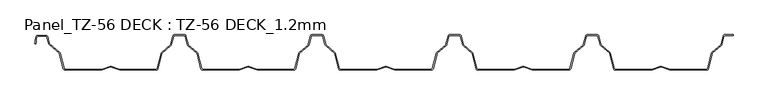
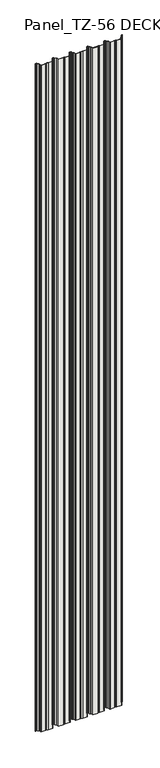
"""IFC4 building model written with IfcOpenShell, lengths in millimetres: roof geometry, Panel_TZ-56 DECK : TZ-56 DECK_1.2mm."""

from ifc_helpers import new_model, si_unit, point, frame_2d, origin, origin_with_axes, place, context, project, spatial, polyline, circle_curve, trimmed, segment, composite_curve, outline, extrude, source, transform, mapped, element, save


def panel_tz_56_deck_tz_56_deck_1_2mm_c2fe84ad(model_context):
    return source(origin(), model_context, "Body", "SweptSolid", [
        extrude(outline(composite_curve([segment(polyline([(-513.0290123, -55.5), (-454.5, -55.5), (-440.8149767, -50.7810265)]), True, "CONTINUOUS"), segment(trimmed(circle_curve(frame_2d((-440.0, -53.1444589)), 2.5), [point((-440.8149767, -50.7810265))], [point((-439.1850233, -50.7810265))], False, "CARTESIAN"), True, "CONTINUOUS"), segment(polyline([(-439.1850233, -50.7810265), (-425.5, -55.5), (-366.9709877, -55.5)]), True, "CONTINUOUS"), segment(trimmed(circle_curve(frame_2d((-366.9709877, -54.0)), 1.5), [point((-366.9709877, -55.5))], [point((-365.5173421, -54.3700198))], True, "CARTESIAN"), True, "CONTINUOUS"), segment(polyline([(-365.5173421, -54.3700198), (-359.2757013, -29.849347)]), True, "CONTINUOUS"), segment(trimmed(circle_curve(frame_2d((-356.8529587, -30.4660466)), 2.5), [point((-359.2757013, -29.849347))], [point((-358.4909613, -28.5774102))], False, "CARTESIAN"), True, "CONTINUOUS"), segment(polyline([(-358.4909613, -28.5774102), (-344.3681882, -16.3288175)]), True, "CONTINUOUS"), segment(trimmed(circle_curve(frame_2d((-345.3509898, -15.1956357)), 1.5), [point((-344.3681882, -16.3288175))], [point((-343.8965997, -15.5627182))], True, "CARTESIAN"), True, "CONTINUOUS"), segment(polyline([(-343.8965997, -15.5627182), (-340.445202, -1.8881958)]), True, "CONTINUOUS"), segment(trimmed(circle_curve(frame_2d((-338.0212186, -2.5)), 2.5), [point((-340.445202, -1.8881958))], [point((-338.0212186, 0.0))], False, "CARTESIAN"), True, "CONTINUOUS"), segment(polyline([(-338.0212186, 0.0), (-321.9787814, 0.0)]), True, "CONTINUOUS"), segment(trimmed(circle_curve(frame_2d((-321.9787814, -2.5)), 2.5), [point((-321.9787814, 0.0))], [point((-319.554798, -1.8881958))], False, "CARTESIAN"), True, "CONTINUOUS"), segment(polyline([(-319.554798, -1.8881958), (-316.1034003, -15.5627182)]), True, "CONTINUOUS"), segment(trimmed(circle_curve(frame_2d((-314.6490102, -15.1956357)), 1.5), [point((-316.1034003, -15.5627182))], [point((-315.6318118, -16.3288175))], True, "CARTESIAN"), True, "CONTINUOUS"), segment(polyline([(-315.6318118, -16.3288175), (-301.5090387, -28.5774102)]), True, "CONTINUOUS"), segment(trimmed(circle_curve(frame_2d((-303.1470413, -30.4660466)), 2.5), [point((-301.5090387, -28.5774102))], [point((-300.7242987, -29.849347))], False, "CARTESIAN"), True, "CONTINUOUS"), segment(polyline([(-300.7242987, -29.849347), (-294.4826579, -54.3700198)]), True, "CONTINUOUS"), segment(trimmed(circle_curve(frame_2d((-293.0290123, -54.0)), 1.5), [point((-294.4826579, -54.3700198))], [point((-293.0290123, -55.5))], True, "CARTESIAN"), True, "CONTINUOUS"), segment(polyline([(-293.0290123, -55.5), (-234.5, -55.5), (-220.8149767, -50.7810265)]), True, "CONTINUOUS"), segment(trimmed(circle_curve(frame_2d((-220.0, -53.1444589)), 2.5), [point((-220.8149767, -50.7810265))], [point((-219.1850233, -50.7810265))], False, "CARTESIAN"), True, "CONTINUOUS"), segment(polyline([(-219.1850233, -50.7810265), (-205.5, -55.5), (-146.9709877, -55.5)]), True, "CONTINUOUS"), segment(trimmed(circle_curve(frame_2d((-146.9709877, -54.0)), 1.5), [point((-146.9709877, -55.5))], [point((-145.5173421, -54.3700198))], True, "CARTESIAN"), True, "CONTINUOUS"), segment(polyline([(-145.5173421, -54.3700198), (-139.2757013, -29.849347)]), True, "CONTINUOUS"), segment(trimmed(circle_curve(frame_2d((-136.8529587, -30.4660466)), 2.5), [point((-139.2757013, -29.849347))], [point((-138.4909613, -28.5774102))], False, "CARTESIAN"), True, "CONTINUOUS"), segment(polyline([(-138.4909613, -28.5774102), (-124.3681882, -16.3288175)]), True, "CONTINUOUS"), segment(trimmed(circle_curve(frame_2d((-125.3509898, -15.1956357)), 1.5), [point((-124.3681882, -16.3288175))], [point((-123.8965997, -15.5627182))], True, "CARTESIAN"), True, "CONTINUOUS"), segment(polyline([(-123.8965997, -15.5627182), (-120.445202, -1.8881958)]), True, "CONTINUOUS"), segment(trimmed(circle_curve(frame_2d((-118.0212186, -2.5)), 2.5), [point((-120.445202, -1.8881958))], [point((-118.0212186, 0.0))], False, "CARTESIAN"), True, "CONTINUOUS"), segment(polyline([(-118.0212186, 0.0), (-101.9787814, 0.0)]), True, "CONTINUOUS"), segment(trimmed(circle_curve(frame_2d((-101.9787814, -2.5)), 2.5), [point((-101.9787814, 0.0))], [point((-99.554798, -1.8881958))], False, "CARTESIAN"), True, "CONTINUOUS"), segment(polyline([(-99.554798, -1.8881958), (-96.1034003, -15.5627182)]), True, "CONTINUOUS"), segment(trimmed(circle_curve(frame_2d((-94.6490102, -15.1956357)), 1.5), [point((-96.1034003, -15.5627182))], [point((-95.6318118, -16.3288175))], True, "CARTESIAN"), True, "CONTINUOUS"), segment(polyline([(-95.6318118, -16.3288175), (-81.5090387, -28.5774102)]), True, "CONTINUOUS"), segment(trimmed(circle_curve(frame_2d((-83.1470413, -30.4660466)), 2.5), [point((-81.5090387, -28.5774102))], [point((-80.7242987, -29.849347))], False, "CARTESIAN"), True, "CONTINUOUS"), segment(polyline([(-80.7242987, -29.849347), (-74.4826579, -54.3700198)]), True, "CONTINUOUS"), segment(trimmed(circle_curve(frame_2d((-73.0290123, -54.0)), 1.5), [point((-74.4826579, -54.3700198))], [point((-73.0290123, -55.5))], True, "CARTESIAN"), True, "CONTINUOUS"), segment(polyline([(-73.0290123, -55.5), (-14.5, -55.5), (-0.8149767, -50.7810265)]), True, "CONTINUOUS"), segment(trimmed(circle_curve(frame_2d((0.0, -53.1444589)), 2.5), [point((-0.8149767, -50.7810265))], [point((0.8149767, -50.7810265))], False, "CARTESIAN"), True, "CONTINUOUS"), segment(polyline([(0.8149767, -50.7810265), (14.5, -55.5), (73.0290123, -55.5)]), True, "CONTINUOUS"), segment(trimmed(circle_curve(frame_2d((73.0290123, -54.0)), 1.5), [point((73.0290123, -55.5))], [point((74.4826579, -54.3700198))], True, "CARTESIAN"), True, "CONTINUOUS"), segment(polyline([(74.4826579, -54.3700198), (80.7242987, -29.849347)]), True, "CONTINUOUS"), segment(trimmed(circle_curve(frame_2d((83.1470413, -30.4660466)), 2.5), [point((80.7242987, -29.849347))], [point((81.5090387, -28.5774102))], False, "CARTESIAN"), True, "CONTINUOUS"), segment(polyline([(81.5090387, -28.5774102), (95.6318118, -16.3288175)]), True, "CONTINUOUS"), segment(trimmed(circle_curve(frame_2d((94.6490102, -15.1956357)), 1.5), [point((95.6318118, -16.3288175))], [point((96.1034003, -15.5627182))], True, "CARTESIAN"), True, "CONTINUOUS"), segment(polyline([(96.1034003, -15.5627182), (99.554798, -1.8881958)]), True, "CONTINUOUS"), segment(trimmed(circle_curve(frame_2d((101.9787814, -2.5)), 2.5), [point((99.554798, -1.8881958))], [point((101.9787814, 0.0))], False, "CARTESIAN"), True, "CONTINUOUS"), segment(polyline([(101.9787814, 0.0), (118.0212186, 0.0)]), True, "CONTINUOUS"), segment(trimmed(circle_curve(frame_2d((118.0212186, -2.5)), 2.5), [point((118.0212186, 0.0))], [point((120.445202, -1.8881958))], False, "CARTESIAN"), True, "CONTINUOUS"), segment(polyline([(120.445202, -1.8881958), (123.8965997, -15.5627182)]), True, "CONTINUOUS"), segment(trimmed(circle_curve(frame_2d((125.3509898, -15.1956357)), 1.5), [point((123.8965997, -15.5627182))], [point((124.3681882, -16.3288175))], True, "CARTESIAN"), True, "CONTINUOUS"), segment(polyline([(124.3681882, -16.3288175), (138.4909613, -28.5774102)]), True, "CONTINUOUS"), segment(trimmed(circle_curve(frame_2d((136.8529587, -30.4660466)), 2.5), [point((138.4909613, -28.5774102))], [point((139.2757013, -29.849347))], False, "CARTESIAN"), True, "CONTINUOUS"), segment(polyline([(139.2757013, -29.849347), (145.5173421, -54.3700198)]), True, "CONTINUOUS"), segment(trimmed(circle_curve(frame_2d((146.9709877, -54.0)), 1.5), [point((145.5173421, -54.3700198))], [point((146.9709877, -55.5))], True, "CARTESIAN"), True, "CONTINUOUS"), segment(polyline([(146.9709877, -55.5), (205.5, -55.5), (219.1850233, -50.7810265)]), True, "CONTINUOUS"), segment(trimmed(circle_curve(frame_2d((220.0, -53.1444589)), 2.5), [point((219.1850233, -50.7810265))], [point((220.8149767, -50.7810265))], False, "CARTESIAN"), True, "CONTINUOUS"), segment(polyline([(220.8149767, -50.7810265), (234.5, -55.5), (293.0290123, -55.5)]), True, "CONTINUOUS"), segment(trimmed(circle_curve(frame_2d((293.0290123, -54.0)), 1.5), [point((293.0290123, -55.5))], [point((294.4826579, -54.3700198))], True, "CARTESIAN"), True, "CONTINUOUS"), segment(polyline([(294.4826579, -54.3700198), (300.7242987, -29.849347)]), True, "CONTINUOUS"), segment(trimmed(circle_curve(frame_2d((303.1470413, -30.4660466)), 2.5), [point((300.7242987, -29.849347))], [point((301.5090387, -28.5774102))], False, "CARTESIAN"), True, "CONTINUOUS"), segment(polyline([(301.5090387, -28.5774102), (315.6318118, -16.3288175)]), True, "CONTINUOUS"), segment(trimmed(circle_curve(frame_2d((314.6490102, -15.1956357)), 1.5), [point((315.6318118, -16.3288175))], [point((316.1034003, -15.5627182))], True, "CARTESIAN"), True, "CONTINUOUS"), segment(polyline([(316.1034003, -15.5627182), (319.554798, -1.8881958)]), True, "CONTINUOUS"), segment(trimmed(circle_curve(frame_2d((321.9787814, -2.5)), 2.5), [point((319.554798, -1.8881958))], [point((321.9787814, 0.0))], False, "CARTESIAN"), True, "CONTINUOUS"), segment(polyline([(321.9787814, 0.0), (338.0212186, 0.0)]), True, "CONTINUOUS"), segment(trimmed(circle_curve(frame_2d((338.0212186, -2.5)), 2.5), [point((338.0212186, 0.0))], [point((340.445202, -1.8881958))], False, "CARTESIAN"), True, "CONTINUOUS"), segment(polyline([(340.445202, -1.8881958), (343.8965997, -15.5627182)]), True, "CONTINUOUS"), segment(trimmed(circle_curve(frame_2d((345.3509898, -15.1956357)), 1.5), [point((343.8965997, -15.5627182))], [point((344.3681882, -16.3288175))], True, "CARTESIAN"), True, "CONTINUOUS"), segment(polyline([(344.3681882, -16.3288175), (358.4909613, -28.5774102)]), True, "CONTINUOUS"), segment(trimmed(circle_curve(frame_2d((356.8529587, -30.4660466)), 2.5), [point((358.4909613, -28.5774102))], [point((359.2757013, -29.849347))], False, "CARTESIAN"), True, "CONTINUOUS"), segment(polyline([(359.2757013, -29.849347), (365.5173421, -54.3700198)]), True, "CONTINUOUS"), segment(trimmed(circle_curve(frame_2d((366.9709877, -54.0)), 1.5), [point((365.5173421, -54.3700198))], [point((366.9709877, -55.5))], True, "CARTESIAN"), True, "CONTINUOUS"), segment(polyline([(366.9709877, -55.5), (425.5, -55.5), (439.1850233, -50.7810265)]), True, "CONTINUOUS"), segment(trimmed(circle_curve(frame_2d((440.0, -53.1444589)), 2.5), [point((439.1850233, -50.7810265))], [point((440.8149767, -50.7810265))], False, "CARTESIAN"), True, "CONTINUOUS"), segment(polyline([(440.8149767, -50.7810265), (454.5, -55.5), (513.0290123, -55.5)]), True, "CONTINUOUS"), segment(trimmed(circle_curve(frame_2d((513.0290123, -54.0)), 1.5), [point((513.0290123, -55.5))], [point((514.4826579, -54.3700198))], True, "CARTESIAN"), True, "CONTINUOUS"), segment(polyline([(514.4826579, -54.3700198), (520.7242987, -29.849347)]), True, "CONTINUOUS"), segment(trimmed(circle_curve(frame_2d((523.1470413, -30.4660466)), 2.5), [point((520.7242987, -29.849347))], [point((521.5090387, -28.5774102))], False, "CARTESIAN"), True, "CONTINUOUS"), segment(polyline([(521.5090387, -28.5774102), (535.6318118, -16.3288175)]), True, "CONTINUOUS"), segment(trimmed(circle_curve(frame_2d((534.6490102, -15.1956357)), 1.5), [point((535.6318118, -16.3288175))], [point((536.1034003, -15.5627182))], True, "CARTESIAN"), True, "CONTINUOUS"), segment(polyline([(536.1034003, -15.5627182), (539.554798, -1.8881958)]), True, "CONTINUOUS"), segment(trimmed(circle_curve(frame_2d((541.9787814, -2.5)), 2.5), [point((539.554798, -1.8881958))], [point((541.9787814, 0.0))], False, "CARTESIAN"), True, "CONTINUOUS"), segment(polyline([(541.9787814, 0.0), (555.3260931, 0.0), (555.3260931, -1.2), (541.9787814, -1.2)]), True, "CONTINUOUS"), segment(trimmed(circle_curve(frame_2d((541.9787814, -2.5)), 1.3), [point((541.9787814, -1.2))], [point((540.7183101, -2.1818618))], True, "CARTESIAN"), True, "CONTINUOUS"), segment(polyline([(540.7183101, -2.1818618), (537.2669123, -15.8563842)]), True, "CONTINUOUS"), segment(trimmed(circle_curve(frame_2d((534.6490102, -15.1956357)), 2.7), [point((537.2669123, -15.8563842))], [point((536.418053, -17.235363))], False, "CARTESIAN"), True, "CONTINUOUS"), segment(polyline([(536.418053, -17.235363), (522.2952799, -29.4839557)]), True, "CONTINUOUS"), segment(trimmed(circle_curve(frame_2d((523.1470413, -30.4660466)), 1.3), [point((522.2952799, -29.4839557))], [point((521.8872151, -30.1453628))], True, "CARTESIAN"), True, "CONTINUOUS"), segment(polyline([(521.8872151, -30.1453628), (515.6455743, -54.6660356)]), True, "CONTINUOUS"), segment(trimmed(circle_curve(frame_2d((513.0290123, -54.0)), 2.7), [point((515.6455743, -54.6660356))], [point((513.0290123, -56.7))], False, "CARTESIAN"), True, "CONTINUOUS"), segment(polyline([(513.0290123, -56.7), (454.2989132, -56.7), (440.4237879, -51.915474)]), True, "CONTINUOUS"), segment(trimmed(circle_curve(frame_2d((440.0, -53.1444589)), 1.3), [point((440.4237879, -51.915474))], [point((439.5762121, -51.915474))], True, "CARTESIAN"), True, "CONTINUOUS"), segment(polyline([(439.5762121, -51.915474), (425.7010868, -56.7), (366.9709877, -56.7)]), True, "CONTINUOUS"), segment(trimmed(circle_curve(frame_2d((366.9709877, -54.0)), 2.7), [point((366.9709877, -56.7))], [point((364.3544257, -54.6660356))], False, "CARTESIAN"), True, "CONTINUOUS"), segment(polyline([(364.3544257, -54.6660356), (358.1127849, -30.1453628)]), True, "CONTINUOUS"), segment(trimmed(circle_curve(frame_2d((356.8529587, -30.4660466)), 1.3), [point((358.1127849, -30.1453628))], [point((357.7047201, -29.4839557))], True, "CARTESIAN"), True, "CONTINUOUS"), segment(polyline([(357.7047201, -29.4839557), (343.581947, -17.235363)]), True, "CONTINUOUS"), segment(trimmed(circle_curve(frame_2d((345.3509898, -15.1956357)), 2.7), [point((343.581947, -17.235363))], [point((342.7330877, -15.8563842))], False, "CARTESIAN"), True, "CONTINUOUS"), segment(polyline([(342.7330877, -15.8563842), (339.2816899, -2.1818618)]), True, "CONTINUOUS"), segment(trimmed(circle_curve(frame_2d((338.0212186, -2.5)), 1.3), [point((339.2816899, -2.1818618))], [point((338.0212186, -1.2))], True, "CARTESIAN"), True, "CONTINUOUS"), segment(polyline([(338.0212186, -1.2), (321.9787814, -1.2)]), True, "CONTINUOUS"), segment(trimmed(circle_curve(frame_2d((321.9787814, -2.5)), 1.3), [point((321.9787814, -1.2))], [point((320.7183101, -2.1818618))], True, "CARTESIAN"), True, "CONTINUOUS"), segment(polyline([(320.7183101, -2.1818618), (317.2669123, -15.8563842)]), True, "CONTINUOUS"), segment(trimmed(circle_curve(frame_2d((314.6490102, -15.1956357)), 2.7), [point((317.2669123, -15.8563842))], [point((316.418053, -17.235363))], False, "CARTESIAN"), True, "CONTINUOUS"), segment(polyline([(316.418053, -17.235363), (302.2952799, -29.4839557)]), True, "CONTINUOUS"), segment(trimmed(circle_curve(frame_2d((303.1470413, -30.4660466)), 1.3), [point((302.2952799, -29.4839557))], [point((301.8872151, -30.1453628))], True, "CARTESIAN"), True, "CONTINUOUS"), segment(polyline([(301.8872151, -30.1453628), (295.6455743, -54.6660356)]), True, "CONTINUOUS"), segment(trimmed(circle_curve(frame_2d((293.0290123, -54.0)), 2.7), [point((295.6455743, -54.6660356))], [point((293.0290123, -56.7))], False, "CARTESIAN"), True, "CONTINUOUS"), segment(polyline([(293.0290123, -56.7), (234.2989132, -56.7), (220.4237879, -51.915474)]), True, "CONTINUOUS"), segment(trimmed(circle_curve(frame_2d((220.0, -53.1444589)), 1.3), [point((220.4237879, -51.915474))], [point((219.5762121, -51.915474))], True, "CARTESIAN"), True, "CONTINUOUS"), segment(polyline([(219.5762121, -51.915474), (205.7010868, -56.7), (146.9709877, -56.7)]), True, "CONTINUOUS"), segment(trimmed(circle_curve(frame_2d((146.9709877, -54.0)), 2.7), [point((146.9709877, -56.7))], [point((144.3544257, -54.6660356))], False, "CARTESIAN"), True, "CONTINUOUS"), segment(polyline([(144.3544257, -54.6660356), (138.1127849, -30.1453628)]), True, "CONTINUOUS"), segment(trimmed(circle_curve(frame_2d((136.8529587, -30.4660466)), 1.3), [point((138.1127849, -30.1453628))], [point((137.7047201, -29.4839557))], True, "CARTESIAN"), True, "CONTINUOUS"), segment(polyline([(137.7047201, -29.4839557), (123.581947, -17.235363)]), True, "CONTINUOUS"), segment(trimmed(circle_curve(frame_2d((125.3509898, -15.1956357)), 2.7), [point((123.581947, -17.235363))], [point((122.7330877, -15.8563842))], False, "CARTESIAN"), True, "CONTINUOUS"), segment(polyline([(122.7330877, -15.8563842), (119.2816899, -2.1818618)]), True, "CONTINUOUS"), segment(trimmed(circle_curve(frame_2d((118.0212186, -2.5)), 1.3), [point((119.2816899, -2.1818618))], [point((118.0212186, -1.2))], True, "CARTESIAN"), True, "CONTINUOUS"), segment(polyline([(118.0212186, -1.2), (101.9787814, -1.2)]), True, "CONTINUOUS"), segment(trimmed(circle_curve(frame_2d((101.9787814, -2.5)), 1.3), [point((101.9787814, -1.2))], [point((100.7183101, -2.1818618))], True, "CARTESIAN"), True, "CONTINUOUS"), segment(polyline([(100.7183101, -2.1818618), (97.2669123, -15.8563842)]), True, "CONTINUOUS"), segment(trimmed(circle_curve(frame_2d((94.6490102, -15.1956357)), 2.7), [point((97.2669123, -15.8563842))], [point((96.418053, -17.235363))], False, "CARTESIAN"), True, "CONTINUOUS"), segment(polyline([(96.418053, -17.235363), (82.2952799, -29.4839557)]), True, "CONTINUOUS"), segment(trimmed(circle_curve(frame_2d((83.1470413, -30.4660466)), 1.3), [point((82.2952799, -29.4839557))], [point((81.8872151, -30.1453628))], True, "CARTESIAN"), True, "CONTINUOUS"), segment(polyline([(81.8872151, -30.1453628), (75.6455743, -54.6660356)]), True, "CONTINUOUS"), segment(trimmed(circle_curve(frame_2d((73.0290123, -54.0)), 2.7), [point((75.6455743, -54.6660356))], [point((73.0290123, -56.7))], False, "CARTESIAN"), True, "CONTINUOUS"), segment(polyline([(73.0290123, -56.7), (14.2989132, -56.7), (0.4237879, -51.915474)]), True, "CONTINUOUS"), segment(trimmed(circle_curve(frame_2d((0.0, -53.1444589)), 1.3), [point((0.4237879, -51.915474))], [point((-0.4237879, -51.915474))], True, "CARTESIAN"), True, "CONTINUOUS"), segment(polyline([(-0.4237879, -51.915474), (-14.2989132, -56.7), (-73.0290123, -56.7)]), True, "CONTINUOUS"), segment(trimmed(circle_curve(frame_2d((-73.0290123, -54.0)), 2.7), [point((-73.0290123, -56.7))], [point((-75.6455743, -54.6660356))], False, "CARTESIAN"), True, "CONTINUOUS"), segment(polyline([(-75.6455743, -54.6660356), (-81.8872151, -30.1453628)]), True, "CONTINUOUS"), segment(trimmed(circle_curve(frame_2d((-83.1470413, -30.4660466)), 1.3), [point((-81.8872151, -30.1453628))], [point((-82.2952799, -29.4839557))], True, "CARTESIAN"), True, "CONTINUOUS"), segment(polyline([(-82.2952799, -29.4839557), (-96.418053, -17.235363)]), True, "CONTINUOUS"), segment(trimmed(circle_curve(frame_2d((-94.6490102, -15.1956357)), 2.7), [point((-96.418053, -17.235363))], [point((-97.2669123, -15.8563842))], False, "CARTESIAN"), True, "CONTINUOUS"), segment(polyline([(-97.2669123, -15.8563842), (-100.7183101, -2.1818618)]), True, "CONTINUOUS"), segment(trimmed(circle_curve(frame_2d((-101.9787814, -2.5)), 1.3), [point((-100.7183101, -2.1818618))], [point((-101.9787814, -1.2))], True, "CARTESIAN"), True, "CONTINUOUS"), segment(polyline([(-101.9787814, -1.2), (-118.0212186, -1.2)]), True, "CONTINUOUS"), segment(trimmed(circle_curve(frame_2d((-118.0212186, -2.5)), 1.3), [point((-118.0212186, -1.2))], [point((-119.2816899, -2.1818618))], True, "CARTESIAN"), True, "CONTINUOUS"), segment(polyline([(-119.2816899, -2.1818618), (-122.7330877, -15.8563842)]), True, "CONTINUOUS"), segment(trimmed(circle_curve(frame_2d((-125.3509898, -15.1956357)), 2.7), [point((-122.7330877, -15.8563842))], [point((-123.581947, -17.235363))], False, "CARTESIAN"), True, "CONTINUOUS"), segment(polyline([(-123.581947, -17.235363), (-137.7047201, -29.4839557)]), True, "CONTINUOUS"), segment(trimmed(circle_curve(frame_2d((-136.8529587, -30.4660466)), 1.3), [point((-137.7047201, -29.4839557))], [point((-138.1127849, -30.1453628))], True, "CARTESIAN"), True, "CONTINUOUS"), segment(polyline([(-138.1127849, -30.1453628), (-144.3544257, -54.6660356)]), True, "CONTINUOUS"), segment(trimmed(circle_curve(frame_2d((-146.9709877, -54.0)), 2.7), [point((-144.3544257, -54.6660356))], [point((-146.9709877, -56.7))], False, "CARTESIAN"), True, "CONTINUOUS"), segment(polyline([(-146.9709877, -56.7), (-205.7010868, -56.7), (-219.5762121, -51.915474)]), True, "CONTINUOUS"), segment(trimmed(circle_curve(frame_2d((-220.0, -53.1444589)), 1.3), [point((-219.5762121, -51.915474))], [point((-220.4237879, -51.915474))], True, "CARTESIAN"), True, "CONTINUOUS"), segment(polyline([(-220.4237879, -51.915474), (-234.2989132, -56.7), (-293.0290123, -56.7)]), True, "CONTINUOUS"), segment(trimmed(circle_curve(frame_2d((-293.0290123, -54.0)), 2.7), [point((-293.0290123, -56.7))], [point((-295.6455743, -54.6660356))], False, "CARTESIAN"), True, "CONTINUOUS"), segment(polyline([(-295.6455743, -54.6660356), (-301.8872151, -30.1453628)]), True, "CONTINUOUS"), segment(trimmed(circle_curve(frame_2d((-303.1470413, -30.4660466)), 1.3), [point((-301.8872151, -30.1453628))], [point((-302.2952799, -29.4839557))], True, "CARTESIAN"), True, "CONTINUOUS"), segment(polyline([(-302.2952799, -29.4839557), (-316.418053, -17.235363)]), True, "CONTINUOUS"), segment(trimmed(circle_curve(frame_2d((-314.6490102, -15.1956357)), 2.7), [point((-316.418053, -17.235363))], [point((-317.2669123, -15.8563842))], False, "CARTESIAN"), True, "CONTINUOUS"), segment(polyline([(-317.2669123, -15.8563842), (-320.7183101, -2.1818618)]), True, "CONTINUOUS"), segment(trimmed(circle_curve(frame_2d((-321.9787814, -2.5)), 1.3), [point((-320.7183101, -2.1818618))], [point((-321.9787814, -1.2))], True, "CARTESIAN"), True, "CONTINUOUS"), segment(polyline([(-321.9787814, -1.2), (-338.0212186, -1.2)]), True, "CONTINUOUS"), segment(trimmed(circle_curve(frame_2d((-338.0212186, -2.5)), 1.3), [point((-338.0212186, -1.2))], [point((-339.2816899, -2.1818618))], True, "CARTESIAN"), True, "CONTINUOUS"), segment(polyline([(-339.2816899, -2.1818618), (-342.7330877, -15.8563842)]), True, "CONTINUOUS"), segment(trimmed(circle_curve(frame_2d((-345.3509898, -15.1956357)), 2.7), [point((-342.7330877, -15.8563842))], [point((-343.581947, -17.235363))], False, "CARTESIAN"), True, "CONTINUOUS"), segment(polyline([(-343.581947, -17.235363), (-357.7047201, -29.4839557)]), True, "CONTINUOUS"), segment(trimmed(circle_curve(frame_2d((-356.8529587, -30.4660466)), 1.3), [point((-357.7047201, -29.4839557))], [point((-358.1127849, -30.1453628))], True, "CARTESIAN"), True, "CONTINUOUS"), segment(polyline([(-358.1127849, -30.1453628), (-364.3544257, -54.6660356)]), True, "CONTINUOUS"), segment(trimmed(circle_curve(frame_2d((-366.9709877, -54.0)), 2.7), [point((-364.3544257, -54.6660356))], [point((-366.9709877, -56.7))], False, "CARTESIAN"), True, "CONTINUOUS"), segment(polyline([(-366.9709877, -56.7), (-425.7010868, -56.7), (-439.5762121, -51.915474)]), True, "CONTINUOUS"), segment(trimmed(circle_curve(frame_2d((-440.0, -53.1444589)), 1.3), [point((-439.5762121, -51.915474))], [point((-440.4237879, -51.915474))], True, "CARTESIAN"), True, "CONTINUOUS"), segment(polyline([(-440.4237879, -51.915474), (-454.2989132, -56.7), (-513.0290123, -56.7)]), True, "CONTINUOUS"), segment(trimmed(circle_curve(frame_2d((-513.0290123, -54.0)), 2.7), [point((-513.0290123, -56.7))], [point((-515.6455743, -54.6660356))], False, "CARTESIAN"), True, "CONTINUOUS"), segment(polyline([(-515.6455743, -54.6660356), (-521.8872151, -30.1453628)]), True, "CONTINUOUS"), segment(trimmed(circle_curve(frame_2d((-523.1470413, -30.4660466)), 1.3), [point((-521.8872151, -30.1453628))], [point((-522.2952799, -29.4839557))], True, "CARTESIAN"), True, "CONTINUOUS"), segment(polyline([(-522.2952799, -29.4839557), (-538.422276, -15.4971129)]), True, "CONTINUOUS"), segment(trimmed(circle_curve(frame_2d((-536.6532332, -13.4573856)), 2.7), [point((-538.422276, -15.4971129))], [point((-539.2711353, -14.1181342))], False, "CARTESIAN"), True, "CONTINUOUS"), segment(polyline([(-539.2711353, -14.1181342), (-541.9683101, -3.4318618)]), True, "CONTINUOUS"), segment(trimmed(circle_curve(frame_2d((-543.2287814, -3.75)), 1.3), [point((-541.9683101, -3.4318618))], [point((-543.2287814, -2.45))], True, "CARTESIAN"), True, "CONTINUOUS"), segment(polyline([(-543.2287814, -2.45), (-556.7712186, -2.45)]), True, "CONTINUOUS"), segment(trimmed(circle_curve(frame_2d((-556.7712186, -3.75)), 1.3), [point((-556.7712186, -2.45))], [point((-558.0315541, -3.4313241))], True, "CARTESIAN"), True, "CONTINUOUS"), segment(polyline([(-558.0315541, -3.4313241), (-559.4616274, -9.0871412)]), True, "CONTINUOUS"), segment(trimmed(circle_curve(frame_2d((-561.1840917, -10.4661966)), 2.2065078), [point((-559.4616274, -9.0871412))], [point((-559.0449068, -11.0070895))], False, "CARTESIAN"), True, "CONTINUOUS"), segment(polyline([(-559.0449068, -11.0070895), (-559.9622178, -14.6349748), (-561.1256044, -14.3408125), (-560.2082935, -10.7129271)]), True, "CONTINUOUS"), segment(trimmed(circle_curve(frame_2d((-561.1840917, -10.4661966)), 1.0065078), [point((-560.2082935, -10.7129271))], [point((-560.3163181, -9.9562681))], True, "CARTESIAN"), True, "CONTINUOUS"), segment(trimmed(circle_curve(frame_2d((-558.5976055, -8.9335134)), 2.0), [point((-560.3163181, -9.9562681))], [point((-560.5365833, -8.4432428))], False, "CARTESIAN"), True, "CONTINUOUS"), segment(polyline([(-560.5365833, -8.4432428), (-559.1949405, -3.1371618)]), True, "CONTINUOUS"), segment(trimmed(circle_curve(frame_2d((-556.7712186, -3.75)), 2.5), [point((-559.1949405, -3.1371618))], [point((-556.7712186, -1.25))], False, "CARTESIAN"), True, "CONTINUOUS"), segment(polyline([(-556.7712186, -1.25), (-543.2287814, -1.25)]), True, "CONTINUOUS"), segment(trimmed(circle_curve(frame_2d((-543.2287814, -3.75)), 2.5), [point((-543.2287814, -1.25))], [point((-540.804798, -3.1381958))], False, "CARTESIAN"), True, "CONTINUOUS"), segment(polyline([(-540.804798, -3.1381958), (-538.1076233, -13.8244681)]), True, "CONTINUOUS"), segment(trimmed(circle_curve(frame_2d((-536.6532332, -13.4573856)), 1.5), [point((-538.1076233, -13.8244681))], [point((-537.6360348, -14.5905674))], True, "CARTESIAN"), True, "CONTINUOUS"), segment(polyline([(-537.6360348, -14.5905674), (-521.5090387, -28.5774102)]), True, "CONTINUOUS"), segment(trimmed(circle_curve(frame_2d((-523.1470413, -30.4660466)), 2.5), [point((-521.5090387, -28.5774102))], [point((-520.7242987, -29.849347))], False, "CARTESIAN"), True, "CONTINUOUS"), segment(polyline([(-520.7242987, -29.849347), (-514.4826579, -54.3700198)]), True, "CONTINUOUS"), segment(trimmed(circle_curve(frame_2d((-513.0290123, -54.0)), 1.5), [point((-514.4826579, -54.3700198))], [point((-513.0290123, -55.5))], True, "CARTESIAN"), True, "CONTINUOUS")], self_intersect=False)), origin_with_axes(), (0.0, 0.0, 1.0), 9000.0),
    ])


if __name__ == "__main__":
    model = new_model("IFC4")
    model_context = context("Model", 3, world=origin())
    ifc_project = project(units=[si_unit("LENGTHUNIT", "METRE", prefix="MILLI")], contexts=[model_context])
    site = spatial("IfcSite", under=ifc_project)
    building = spatial("IfcBuilding", under=site)
    placement = place(None, origin())
    panel_tz_56_deck_tz_56_deck_1_2mm_shape = panel_tz_56_deck_tz_56_deck_1_2mm_c2fe84ad(model_context)
    element("IfcRoof", 1, ObjectType="Panel_TZ-56 DECK : TZ-56 DECK_1.2mm", at=placement, inside=building, context=model_context, shape_type="MappedRepresentation", body=[
        mapped(panel_tz_56_deck_tz_56_deck_1_2mm_shape, transform((0.0, 0.0, 0.0), x_axis=(1.0, 0.0, 0.0), y_axis=(0.0, 1.0, 0.0), z_axis=(0.0, 0.0, 1.0))),
    ])
    save(model, "model.ifc")
